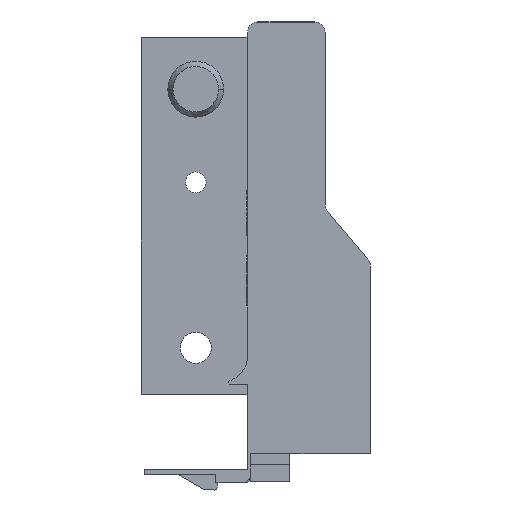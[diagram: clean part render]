
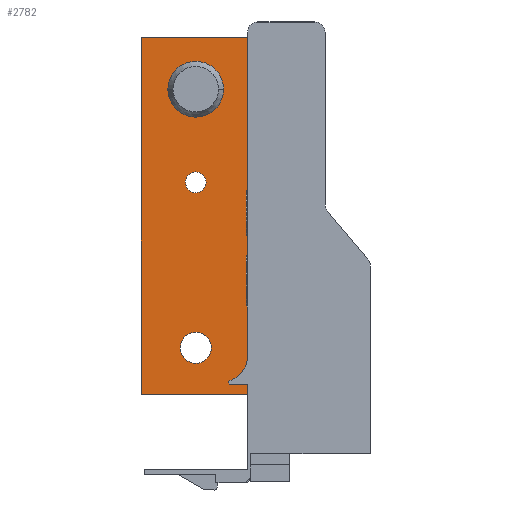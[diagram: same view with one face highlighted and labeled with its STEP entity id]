
A CAD part, front view. The second image highlights one B-rep face of the part: STEP entity #2782.
In plain terms, the highlighted planar face has unit normal (0, -1, 0).
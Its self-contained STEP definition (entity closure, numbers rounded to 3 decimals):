
#73 = EDGE_LOOP ( 'NONE', ( #1272, #1240 ) ) ;
#76 = EDGE_LOOP ( 'NONE', ( #1222, #1407 ) ) ;
#96 = EDGE_LOOP ( 'NONE', ( #1349, #1405 ) ) ;
#99 = EDGE_LOOP ( 'NONE', ( #1274, #1281, #1261, #1386, #1359, #1256 ) ) ;
#448 = CARTESIAN_POINT ( 'NONE',  ( -29.5, 397.2, 39. ) ) ;
#468 = CARTESIAN_POINT ( 'NONE',  ( -42., 397.2, 67. ) ) ;
#473 = CARTESIAN_POINT ( 'NONE',  ( -21.1, 397.2, 27. ) ) ;
#475 = CARTESIAN_POINT ( 'NONE',  ( -34.5, 397.2, 7. ) ) ;
#478 = CARTESIAN_POINT ( 'NONE',  ( -26.1, 397.2, 57. ) ) ;
#488 = CARTESIAN_POINT ( 'NONE',  ( -36.9, 397.2, 57. ) ) ;
#679 = CARTESIAN_POINT ( 'NONE',  ( -31.5, 397.2, 57. ) ) ;
#680 = DIRECTION ( 'NONE',  ( 0., -1., 0. ) ) ;
#681 = DIRECTION ( 'NONE',  ( 1., 0., 0. ) ) ;
#690 = CARTESIAN_POINT ( 'NONE',  ( -31.5, 397.2, 7. ) ) ;
#691 = DIRECTION ( 'NONE',  ( 0., 1., 0. ) ) ;
#692 = DIRECTION ( 'NONE',  ( 1., 0., 0. ) ) ;
#707 = CARTESIAN_POINT ( 'NONE',  ( -31.5, 397.2, 39. ) ) ;
#708 = DIRECTION ( 'NONE',  ( 0., 1., 0. ) ) ;
#709 = DIRECTION ( 'NONE',  ( 1., 0., 0. ) ) ;
#731 = CARTESIAN_POINT ( 'NONE',  ( -21.1, 397.2, 27. ) ) ;
#732 = DIRECTION ( 'NONE',  ( 1., 0., 0. ) ) ;
#733 = CARTESIAN_POINT ( 'NONE',  ( -21.1, 397.2, 67. ) ) ;
#734 = DIRECTION ( 'NONE',  ( 1., 0., 0. ) ) ;
#1114 = VECTOR ( 'NONE', #734, 1000. ) ;
#1115 = LINE ( 'NONE', #733, #1114 ) ;
#1116 = VECTOR ( 'NONE', #732, 1000. ) ;
#1118 = LINE ( 'NONE', #731, #1116 ) ;
#1132 = CIRCLE ( 'NONE', #2702, 2. ) ;
#1143 = CIRCLE ( 'NONE', #2699, 3. ) ;
#1148 = CIRCLE ( 'NONE', #2696, 5.4 ) ;
#1222 = ORIENTED_EDGE ( 'NONE', *, *, #2604, .T. ) ;
#1240 = ORIENTED_EDGE ( 'NONE', *, *, #2423, .F. ) ;
#1256 = ORIENTED_EDGE ( 'NONE', *, *, #2445, .F. ) ;
#1261 = ORIENTED_EDGE ( 'NONE', *, *, #2608, .T. ) ;
#1272 = ORIENTED_EDGE ( 'NONE', *, *, #2603, .F. ) ;
#1274 = ORIENTED_EDGE ( 'NONE', *, *, #2606, .F. ) ;
#1281 = ORIENTED_EDGE ( 'NONE', *, *, #2607, .F. ) ;
#1349 = ORIENTED_EDGE ( 'NONE', *, *, #2605, .T. ) ;
#1359 = ORIENTED_EDGE ( 'NONE', *, *, #2602, .T. ) ;
#1386 = ORIENTED_EDGE ( 'NONE', *, *, #2444, .T. ) ;
#1405 = ORIENTED_EDGE ( 'NONE', *, *, #2434, .T. ) ;
#1407 = ORIENTED_EDGE ( 'NONE', *, *, #2427, .T. ) ;
#1472 = CARTESIAN_POINT ( 'NONE',  ( -21.1, 397.2, 27. ) ) ;
#1473 = DIRECTION ( 'NONE',  ( 0., 0., 1. ) ) ;
#1474 = CARTESIAN_POINT ( 'NONE',  ( -31.5, 397.2, 57. ) ) ;
#1475 = DIRECTION ( 'NONE',  ( 0., -1., 0. ) ) ;
#1476 = DIRECTION ( 'NONE',  ( 1., 0., 0. ) ) ;
#1477 = CARTESIAN_POINT ( 'NONE',  ( -31.5, 397.2, 7. ) ) ;
#1478 = DIRECTION ( 'NONE',  ( 0., 1., 0. ) ) ;
#1479 = DIRECTION ( 'NONE',  ( 1., 0., 0. ) ) ;
#1480 = CARTESIAN_POINT ( 'NONE',  ( -31.5, 397.2, 39. ) ) ;
#1481 = DIRECTION ( 'NONE',  ( 0., 1., 0. ) ) ;
#1482 = DIRECTION ( 'NONE',  ( 1., 0., 0. ) ) ;
#1483 = CARTESIAN_POINT ( 'NONE',  ( -42., 397.2, 27. ) ) ;
#1484 = DIRECTION ( 'NONE',  ( 0., 0., 1. ) ) ;
#1485 = CARTESIAN_POINT ( 'NONE',  ( -21.5, 397.2, -2. ) ) ;
#1486 = DIRECTION ( 'NONE',  ( -1., 0., 0. ) ) ;
#1487 = CARTESIAN_POINT ( 'NONE',  ( -21.5, 397.2, -2. ) ) ;
#1488 = DIRECTION ( 'NONE',  ( 0., 0., 1. ) ) ;
#1610 = PLANE ( 'NONE',  #2757 ) ;
#1611 = CARTESIAN_POINT ( 'NONE',  ( -21.1, 397.2, 27. ) ) ;
#1612 = DIRECTION ( 'NONE',  ( 0., -1., 0. ) ) ;
#1613 = DIRECTION ( 'NONE',  ( 1., 0., 0. ) ) ;
#1793 = CARTESIAN_POINT ( 'NONE',  ( -21.5, 397.2, 27. ) ) ;
#1811 = VERTEX_POINT ( 'NONE', #1849 ) ;
#1821 = VERTEX_POINT ( 'NONE', #1834 ) ;
#1825 = CARTESIAN_POINT ( 'NONE',  ( -42., 397.2, -2. ) ) ;
#1826 = CARTESIAN_POINT ( 'NONE',  ( -21.5, 397.2, -2. ) ) ;
#1834 = CARTESIAN_POINT ( 'NONE',  ( -21.1, 397.2, 67. ) ) ;
#1844 = VERTEX_POINT ( 'NONE', #1793 ) ;
#1847 = VERTEX_POINT ( 'NONE', #1826 ) ;
#1849 = CARTESIAN_POINT ( 'NONE',  ( -33.5, 397.2, 39. ) ) ;
#1860 = VERTEX_POINT ( 'NONE', #1825 ) ;
#1897 = VERTEX_POINT ( 'NONE', #2822 ) ;
#1955 = VERTEX_POINT ( 'NONE', #448 ) ;
#1975 = VERTEX_POINT ( 'NONE', #468 ) ;
#1980 = VERTEX_POINT ( 'NONE', #473 ) ;
#1982 = VERTEX_POINT ( 'NONE', #475 ) ;
#1985 = VERTEX_POINT ( 'NONE', #478 ) ;
#1995 = VERTEX_POINT ( 'NONE', #488 ) ;
#2079 = FACE_OUTER_BOUND ( 'NONE', #99, .T. ) ;
#2080 = FACE_BOUND ( 'NONE', #96, .T. ) ;
#2081 = FACE_BOUND ( 'NONE', #76, .T. ) ;
#2082 = FACE_BOUND ( 'NONE', #73, .T. ) ;
#2154 = VECTOR ( 'NONE', #1488, 1000. ) ;
#2155 = LINE ( 'NONE', #1487, #2154 ) ;
#2156 = VECTOR ( 'NONE', #1486, 1000. ) ;
#2157 = LINE ( 'NONE', #1485, #2156 ) ;
#2158 = VECTOR ( 'NONE', #1484, 1000. ) ;
#2159 = CIRCLE ( 'NONE', #2737, 2. ) ;
#2160 = LINE ( 'NONE', #1483, #2158 ) ;
#2161 = CIRCLE ( 'NONE', #2736, 3. ) ;
#2162 = CIRCLE ( 'NONE', #2735, 5.4 ) ;
#2163 = VECTOR ( 'NONE', #1473, 1000. ) ;
#2164 = LINE ( 'NONE', #1472, #2163 ) ;
#2423 = EDGE_CURVE ( 'NONE', #1985, #1995, #1148, .T. ) ;
#2427 = EDGE_CURVE ( 'NONE', #1897, #1982, #1143, .T. ) ;
#2434 = EDGE_CURVE ( 'NONE', #1955, #1811, #1132, .T. ) ;
#2444 = EDGE_CURVE ( 'NONE', #1844, #1980, #1118, .T. ) ;
#2445 = EDGE_CURVE ( 'NONE', #1975, #1821, #1115, .T. ) ;
#2602 = EDGE_CURVE ( 'NONE', #1980, #1821, #2164, .T. ) ;
#2603 = EDGE_CURVE ( 'NONE', #1995, #1985, #2162, .T. ) ;
#2604 = EDGE_CURVE ( 'NONE', #1982, #1897, #2161, .T. ) ;
#2605 = EDGE_CURVE ( 'NONE', #1811, #1955, #2159, .T. ) ;
#2606 = EDGE_CURVE ( 'NONE', #1860, #1975, #2160, .T. ) ;
#2607 = EDGE_CURVE ( 'NONE', #1847, #1860, #2157, .T. ) ;
#2608 = EDGE_CURVE ( 'NONE', #1847, #1844, #2155, .T. ) ;
#2696 = AXIS2_PLACEMENT_3D ( 'NONE', #679, #680, #681 ) ;
#2699 = AXIS2_PLACEMENT_3D ( 'NONE', #690, #691, #692 ) ;
#2702 = AXIS2_PLACEMENT_3D ( 'NONE', #707, #708, #709 ) ;
#2735 = AXIS2_PLACEMENT_3D ( 'NONE', #1474, #1475, #1476 ) ;
#2736 = AXIS2_PLACEMENT_3D ( 'NONE', #1477, #1478, #1479 ) ;
#2737 = AXIS2_PLACEMENT_3D ( 'NONE', #1480, #1481, #1482 ) ;
#2757 = AXIS2_PLACEMENT_3D ( 'NONE', #1611, #1612, #1613 ) ;
#2782 = ADVANCED_FACE ( 'NONE', ( #2082, #2081, #2080, #2079 ), #1610, .T. ) ;
#2822 = CARTESIAN_POINT ( 'NONE',  ( -28.5, 397.2, 7. ) ) ;
